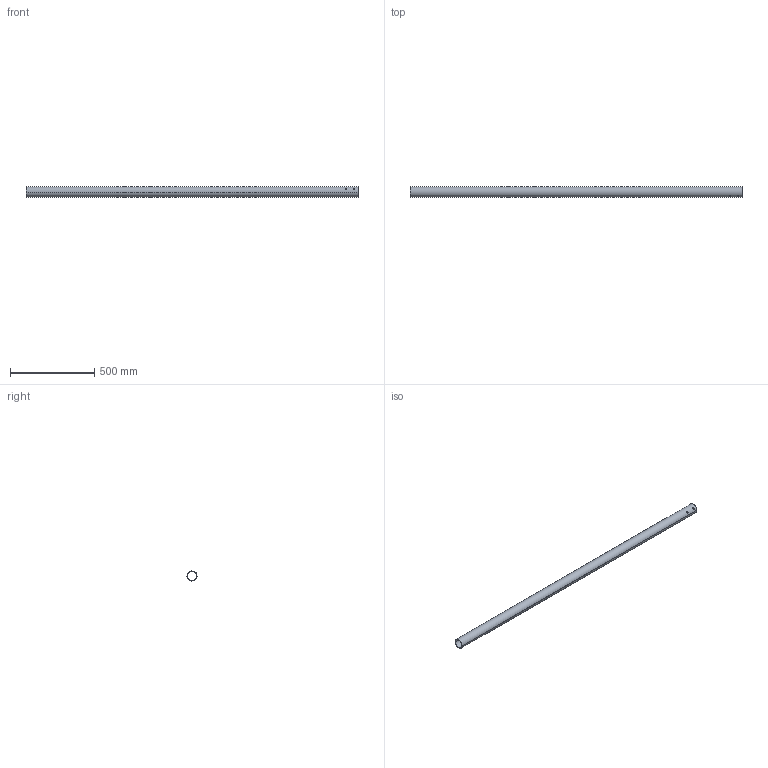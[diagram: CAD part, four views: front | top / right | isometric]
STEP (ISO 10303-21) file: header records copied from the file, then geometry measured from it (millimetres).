
FILE_DESCRIPTION(/* description */ ('(C) Elphel, Inc. 2012. Licensed under CERN OHL v.1.1 or later, see http://ohwr.org/cernohl'),/* implementation_level */ '2;1');
FILE_NAME(/* name */ '0353-25-04',/* time_stamp */ '2012-06-09T00:50:26-06:00',/* author */ (''),/* organization */ ('Elphel, Inc'),/* preprocessor_version */ 'ST-DEVELOPER v12',/* originating_system */ 'VariCAD 2012-1.04; kernel version (20100102)',/* authorisation */ '');
FILE_SCHEMA (('AUTOMOTIVE_DESIGN'));
Length unit declared in the file: millimetre
Products named in the file (1): Part
Bounding box: 1975 x 60.33 x 60.33 mm (x, y, z)
Volume: 988345.3 mm3; surface area: 715155.1 mm2
Topology: 1 solids, 1 shells, 10 faces, 24 edges, 16 vertices
Faces by surface type: cylinder 8, plane 2
Entity records: 473 total; most frequent: CARTESIAN_POINT 206, ORIENTED_EDGE 48, DIRECTION 48, EDGE_CURVE 24, AXIS2_PLACEMENT_3D 20, EDGE_LOOP 16, VERTEX_POINT 16, ADVANCED_FACE 10
